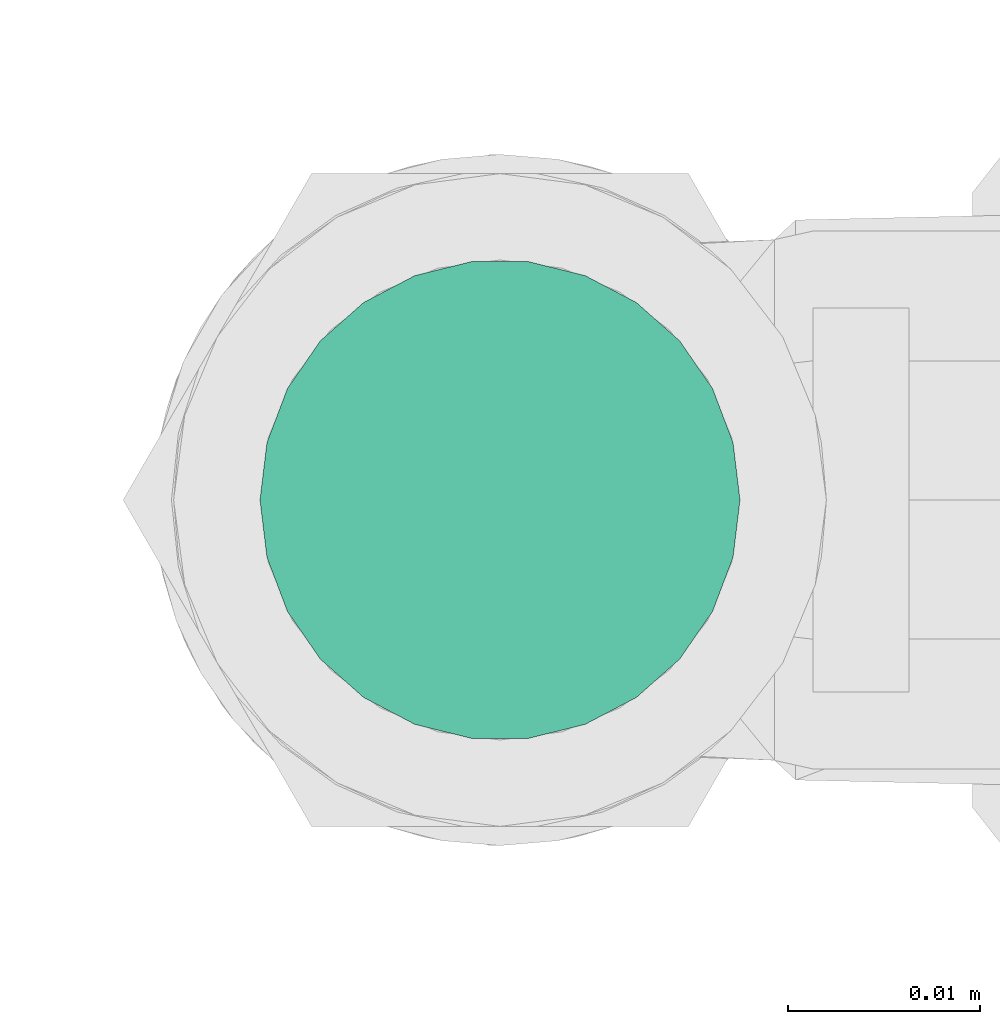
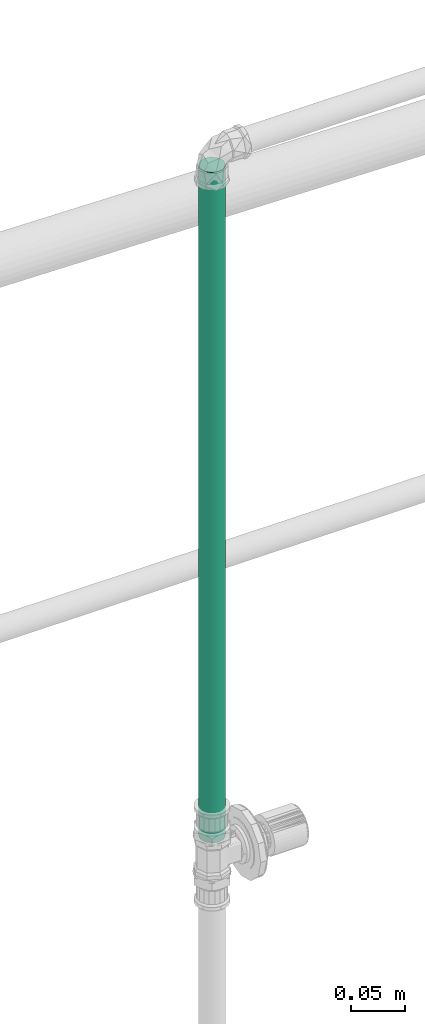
# One storey, part 114 of 589: 1 flow segment.
"""IFC2X3 building model written with IfcOpenShell, lengths in millimetres."""

from ifc_helpers import new_model, entity, si_unit, converted_unit, derived_unit, direction, frame, origin, origin_2d_with_axis, place, context, subcontext, project, spatial, circle, extrude, type_object, element, save


model = new_model("IFC2X3")

# Units and contexts
model_context = context("Model", 3, precision=0.01, world=origin(), true_north=direction((6.123031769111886e-17, 1.0)))
body_context = subcontext(model_context, "Body", "Model", "MODEL_VIEW")
ifc_project = project(units=[si_unit("LENGTHUNIT", "METRE", prefix="MILLI"), si_unit("AREAUNIT", "SQUARE_METRE"), si_unit("VOLUMEUNIT", "CUBIC_METRE"), converted_unit("PLANEANGLEUNIT", "DEGREE", entity("IfcRatioMeasure", 0.017453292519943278), si_unit("PLANEANGLEUNIT", "RADIAN"), dimensions=[0, 0, 0, 0, 0, 0, 0]), si_unit("MASSUNIT", "GRAM", prefix="KILO"), derived_unit("MASSDENSITYUNIT", [(si_unit("MASSUNIT", "GRAM", prefix="KILO"), 1), (si_unit("LENGTHUNIT", "METRE"), -3)]), derived_unit("IONCONCENTRATIONUNIT", [(si_unit("MASSUNIT", "GRAM", prefix="KILO"), 1), (si_unit("LENGTHUNIT", "METRE"), -3)]), derived_unit("MOMENTOFINERTIAUNIT", [(si_unit("LENGTHUNIT", "METRE"), 4)]), si_unit("TIMEUNIT", "SECOND"), si_unit("FREQUENCYUNIT", "HERTZ"), si_unit("THERMODYNAMICTEMPERATUREUNIT", "DEGREE_CELSIUS"), derived_unit("THERMALTRANSMITTANCEUNIT", [(si_unit("MASSUNIT", "GRAM", prefix="KILO"), 1), (si_unit("THERMODYNAMICTEMPERATUREUNIT", "KELVIN"), -1), (si_unit("TIMEUNIT", "SECOND"), -3)]), derived_unit("THERMALCONDUCTANCEUNIT", [(si_unit("MASSUNIT", "GRAM", prefix="KILO"), 1), (si_unit("THERMODYNAMICTEMPERATUREUNIT", "KELVIN"), -1), (si_unit("TIMEUNIT", "SECOND"), -3), (si_unit("LENGTHUNIT", "METRE"), 1)]), derived_unit("VOLUMETRICFLOWRATEUNIT", [(si_unit("LENGTHUNIT", "METRE"), 3), (si_unit("TIMEUNIT", "SECOND"), -1)]), derived_unit("MASSFLOWRATEUNIT", [(si_unit("MASSUNIT", "GRAM", prefix="KILO"), 1), (si_unit("TIMEUNIT", "SECOND"), -1)]), derived_unit("ROTATIONALFREQUENCYUNIT", [(si_unit("TIMEUNIT", "SECOND"), -1)]), si_unit("ELECTRICCURRENTUNIT", "AMPERE"), si_unit("ELECTRICVOLTAGEUNIT", "VOLT"), si_unit("POWERUNIT", "WATT"), si_unit("FORCEUNIT", "NEWTON", prefix="KILO"), si_unit("ILLUMINANCEUNIT", "LUX"), si_unit("LUMINOUSFLUXUNIT", "LUMEN"), si_unit("LUMINOUSINTENSITYUNIT", "CANDELA"), derived_unit("USERDEFINED", [(si_unit("MASSUNIT", "GRAM", prefix="KILO"), -1), (si_unit("LENGTHUNIT", "METRE"), -2), (si_unit("TIMEUNIT", "SECOND"), 3), (si_unit("LUMINOUSFLUXUNIT", "LUMEN"), 1)]), derived_unit("USERDEFINED", [(si_unit("MASSUNIT", "GRAM", prefix="KILO"), 1), (si_unit("TIMEUNIT", "SECOND"), -3), (si_unit("LENGTHUNIT", "METRE"), 3), (si_unit("ELECTRICCURRENTUNIT", "AMPERE"), -2)]), derived_unit("SOUNDPOWERUNIT", [(si_unit("MASSUNIT", "GRAM", prefix="KILO"), 1), (si_unit("TIMEUNIT", "SECOND"), -3), (si_unit("LENGTHUNIT", "METRE"), 2)]), derived_unit("SOUNDPRESSUREUNIT", [(si_unit("MASSUNIT", "GRAM", prefix="KILO"), 1), (si_unit("LENGTHUNIT", "METRE"), -1), (si_unit("TIMEUNIT", "SECOND"), -2)]), derived_unit("LINEARVELOCITYUNIT", [(si_unit("LENGTHUNIT", "METRE"), 1), (si_unit("TIMEUNIT", "SECOND"), -1)]), si_unit("PRESSUREUNIT", "PASCAL"), derived_unit("USERDEFINED", [(si_unit("MASSUNIT", "GRAM", prefix="KILO"), 1), (si_unit("LENGTHUNIT", "METRE"), -2), (si_unit("TIMEUNIT", "SECOND"), -2)]), derived_unit("LINEARFORCEUNIT", [(si_unit("MASSUNIT", "GRAM", prefix="KILO"), 1), (si_unit("TIMEUNIT", "SECOND"), -2)]), derived_unit("PLANARFORCEUNIT", [(si_unit("MASSUNIT", "GRAM", prefix="KILO"), 1), (si_unit("LENGTHUNIT", "METRE"), -1), (si_unit("TIMEUNIT", "SECOND"), -2)]), derived_unit("SPECIFICHEATCAPACITYUNIT", [(si_unit("THERMODYNAMICTEMPERATUREUNIT", "KELVIN"), -1), (si_unit("LENGTHUNIT", "METRE"), 2), (si_unit("TIMEUNIT", "SECOND"), -2)]), derived_unit("HEATINGVALUEUNIT", [(si_unit("LENGTHUNIT", "METRE"), 2), (si_unit("TIMEUNIT", "SECOND"), -2)]), derived_unit("VAPORPERMEABILITYUNIT", [(si_unit("LENGTHUNIT", "METRE"), -1), (si_unit("TIMEUNIT", "SECOND"), 1)]), derived_unit("DYNAMICVISCOSITYUNIT", [(si_unit("MASSUNIT", "GRAM", prefix="KILO"), 1), (si_unit("TIMEUNIT", "SECOND"), -1), (si_unit("LENGTHUNIT", "METRE"), -1)]), derived_unit("THERMALEXPANSIONCOEFFICIENTUNIT", [(si_unit("THERMODYNAMICTEMPERATUREUNIT", "KELVIN"), -1)]), derived_unit("MODULUSOFELASTICITYUNIT", [(si_unit("MASSUNIT", "GRAM", prefix="KILO"), 1), (si_unit("LENGTHUNIT", "METRE"), -1), (si_unit("TIMEUNIT", "SECOND"), -2)]), derived_unit("ISOTHERMALMOISTURECAPACITYUNIT", [(si_unit("LENGTHUNIT", "METRE"), 3), (si_unit("MASSUNIT", "GRAM", prefix="KILO"), -1)]), derived_unit("MOISTUREDIFFUSIVITYUNIT", [(si_unit("TIMEUNIT", "SECOND"), -1), (si_unit("LENGTHUNIT", "METRE"), 2)])], contexts=[model_context])

# Site, building, storey
site_placement = place(None, origin())
site = spatial("IfcSite", under=ifc_project, at=site_placement, Name="Default", CompositionType="ELEMENT")
building_placement = place(site_placement, origin())
building = spatial("IfcBuilding", under=site, at=building_placement, CompositionType="ELEMENT")
storey_placement = place(building_placement, frame((0.0, 0.0, 100.0)))
storey = spatial("IfcBuildingStorey", under=building, at=storey_placement, Name="TÉRREO", CompositionType="ELEMENT", Elevation=100.0)

# Flow segment
pipe_segment_type = type_object("IfcPipeSegmentType", Name="Tipos de tubos:PVC Marrom Soldável", PredefinedType="NOTDEFINED")
flow_segment_placement = place(storey_placement, origin())
element("IfcFlowSegment", 1, at=flow_segment_placement, inside=storey, type_object=pipe_segment_type, Name="Tipos de tubos:PVC Marrom Soldável", ObjectType="Tipos de tubos:PVC Marrom Soldável", context=body_context, shape_type="SweptSolid", body=[
    extrude(circle(Radius=12.5, at=origin_2d_with_axis()), frame((4629.553225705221, -949.8765311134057, 2220.0), z_axis=(0.0, 0.0, 1.0), x_axis=(-1.0, 0.0, 0.0)), (0.0, 0.0, 1.0), 764.6000000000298),
])

save(model, "model.ifc")
